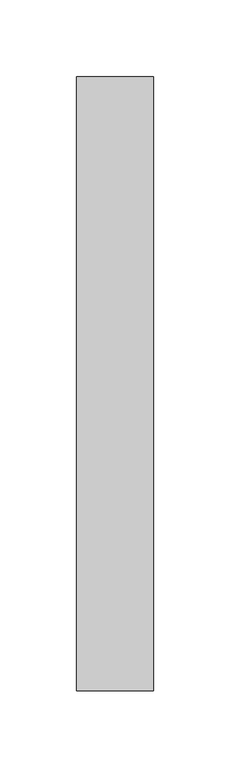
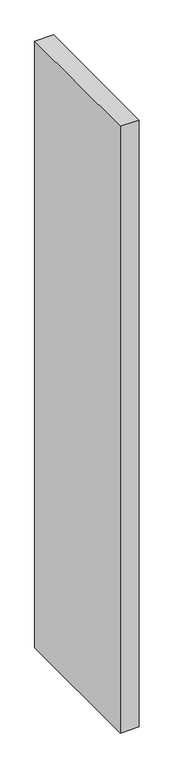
"""IFC4 building model written with IfcOpenShell, lengths in millimetres: proxy geometry, Menneau extrémité façade."""

from ifc_helpers import new_model, si_unit, frame, origin, place, context, project, spatial, polyline, outline, extrude, source, transform, mapped, element, save


def generic_models_594749ac(model_context):
    return source(origin(), model_context, "Body", "SweptSolid", [
        extrude(outline(polyline([(-3899.9988284, -10900.0), (-3949.9987968, -10900.0), (-3949.9987968, -10500.0), (-3899.9988284, -10500.0), (-3899.9988284, -10900.0)])), frame((0.0, 0.0, 3175.0), z_axis=(0.0, 0.0, 1.0), x_axis=(1.0, 0.0, 0.0)), (0.0, 0.0, 1.0), 1725.0),
    ])


if __name__ == "__main__":
    model = new_model("IFC4")
    model_context = context("Model", 3, world=origin())
    ifc_project = project(units=[si_unit("LENGTHUNIT", "METRE", prefix="MILLI")], contexts=[model_context])
    site = spatial("IfcSite", under=ifc_project)
    building = spatial("IfcBuilding", under=site)
    placement = place(None, origin())
    generic_models_shape = generic_models_594749ac(model_context)
    element("IfcBuildingElementProxy", 1, Name="Menneau extrémité façade", ObjectType="Menneau extrémité façade", at=placement, inside=building, context=model_context, shape_type="MappedRepresentation", body=[
        mapped(generic_models_shape, transform((0.0, 0.0, 0.0), x_axis=(1.0, 0.0, 0.0), y_axis=(0.0, 1.0, 0.0), z_axis=(0.0, 0.0, 1.0))),
    ])
    save(model, "model.ifc")
